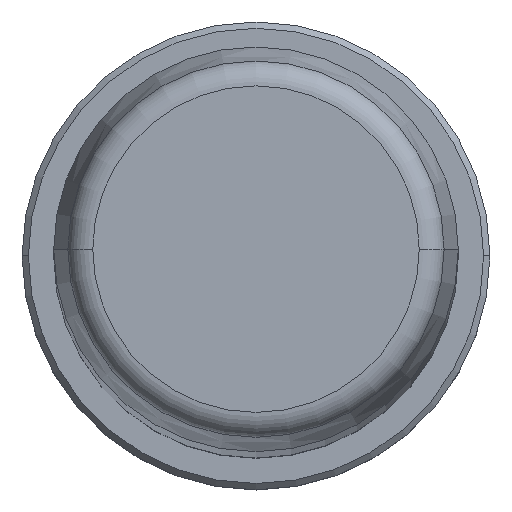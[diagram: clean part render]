
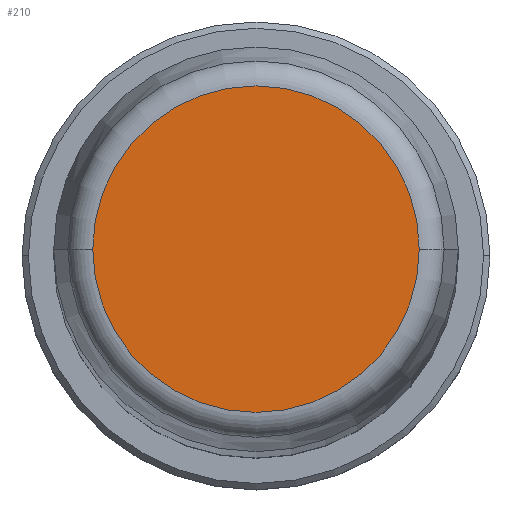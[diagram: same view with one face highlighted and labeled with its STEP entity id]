
A CAD part, top view. The second image highlights one B-rep face of the part: STEP entity #210.
In plain terms, the highlighted planar face has unit normal (0, 0, 1).
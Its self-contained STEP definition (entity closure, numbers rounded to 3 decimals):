
#1=CARTESIAN_POINT('',(0.,0.,315.));
#2=DIRECTION('',(0.,0.,-1.));
#3=DIRECTION('',(-1.,0.,0.));
#4=AXIS2_PLACEMENT_3D('',#1,#2,#3);
#6=CARTESIAN_POINT('',(0.,0.,315.));
#7=DIRECTION('',(0.,0.,-1.));
#8=DIRECTION('',(1.,0.,0.));
#9=AXIS2_PLACEMENT_3D('',#6,#7,#8);
#183=CARTESIAN_POINT('',(-12.911,0.,315.));
#184=CARTESIAN_POINT('',(12.911,0.,315.));
#185=VERTEX_POINT('',#183);
#186=VERTEX_POINT('',#184);
#199=CARTESIAN_POINT('',(0.,0.,315.));
#200=DIRECTION('',(0.,0.,1.));
#201=DIRECTION('',(-1.,0.,0.));
#202=AXIS2_PLACEMENT_3D('',#199,#200,#201);
#203=PLANE('',#202);
#205=ORIENTED_EDGE('',*,*,#204,.T.);
#207=ORIENTED_EDGE('',*,*,#206,.T.);
#208=EDGE_LOOP('',(#205,#207));
#209=FACE_OUTER_BOUND('',#208,.F.);
#210=ADVANCED_FACE('',(#209),#203,.T.);
#5=CIRCLE('',#4,12.911);
#10=CIRCLE('',#9,12.911);
#204=EDGE_CURVE('',#185,#186,#5,.T.);
#206=EDGE_CURVE('',#186,#185,#10,.T.);
